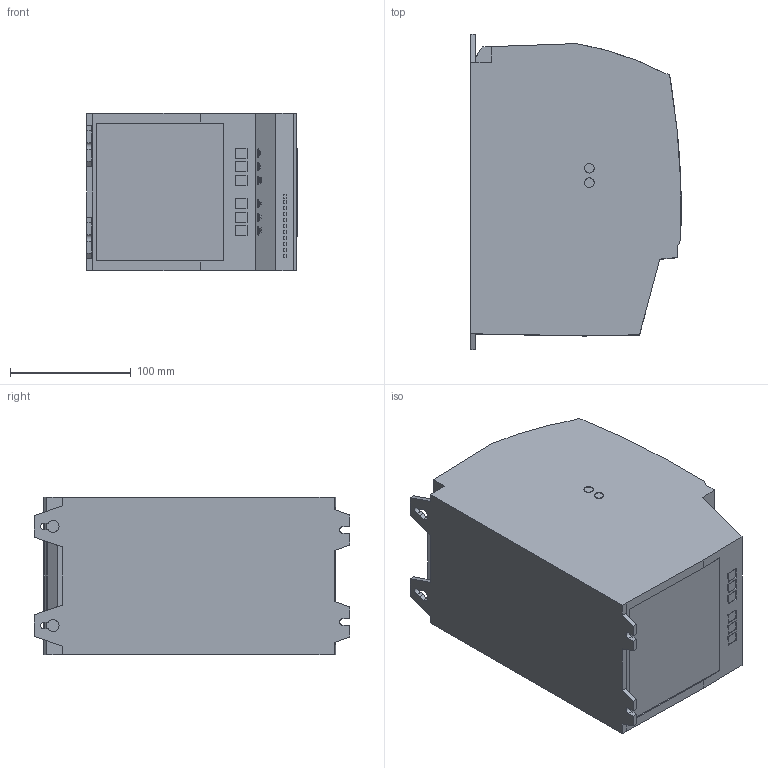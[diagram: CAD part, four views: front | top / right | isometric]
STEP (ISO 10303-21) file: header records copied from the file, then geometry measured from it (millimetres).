
FILE_DESCRIPTION (( 'STEP AP214' ), '1' );
FILE_NAME ('E3 S3 STEP.STEP', '2017-08-15T09:01:03', ( '' ), ( '' ), 'SwSTEP 2.0', 'SolidWorks 2017', '' );
FILE_SCHEMA (( 'AUTOMOTIVE_DESIGN' ));
Length unit declared in the file: millimetre
Products named in the file (1): E3 S3 STEP
Bounding box: 173.99 x 261 x 130 mm (x, y, z)
Volume: 4960845.8 mm3; surface area: 185526.6 mm2
Topology: 1 solids, 1 shells, 751 faces, 1943 edges, 1308 vertices
Faces by surface type: plane 443, bspline 224, cylinder 84
Entity records: 31256 total; most frequent: CARTESIAN_POINT 14444, ORIENTED_EDGE 3886, DIRECTION 2587, EDGE_CURVE 1943, VERTEX_POINT 1308, VECTOR 1283, LINE 1283, EDGE_LOOP 869
